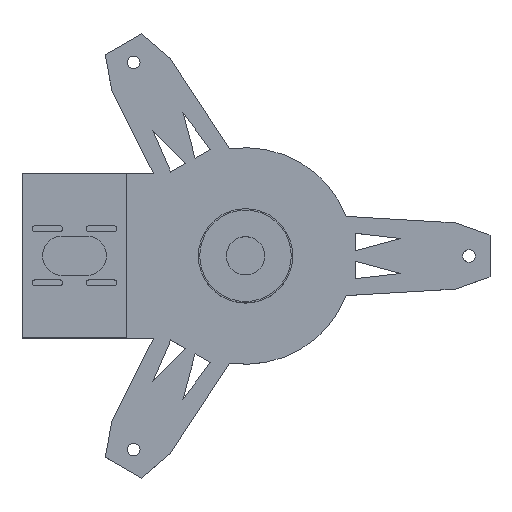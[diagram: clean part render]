
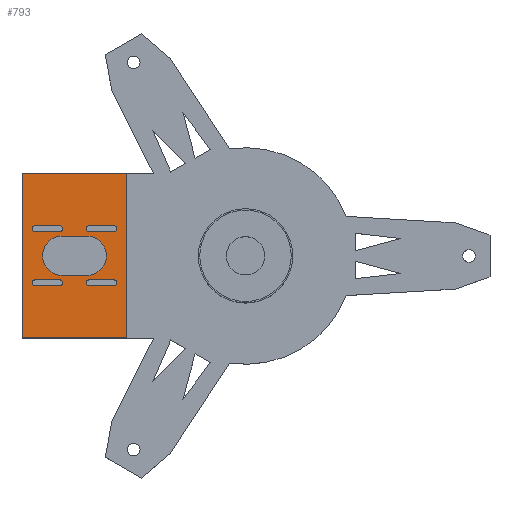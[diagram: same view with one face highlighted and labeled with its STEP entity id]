
A CAD part, top view. The second image highlights one B-rep face of the part: STEP entity #793.
In plain terms, the highlighted planar face has unit normal (0, 0, 1).
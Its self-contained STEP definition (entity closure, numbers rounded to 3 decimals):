
#793 = ADVANCED_FACE('',(#794,#828,#873,#918,#963,#1008),#1053,.T.);
#794 = FACE_BOUND('',#795,.T.);
#795 = EDGE_LOOP('',(#796,#806,#814,#822));
#796 = ORIENTED_EDGE('',*,*,#797,.F.);
#797 = EDGE_CURVE('',#798,#800,#802,.T.);
#798 = VERTEX_POINT('',#799);
#799 = CARTESIAN_POINT('',(-128.,-47.,66.));
#800 = VERTEX_POINT('',#801);
#801 = CARTESIAN_POINT('',(-128.,47.,66.));
#802 = LINE('',#803,#804);
#803 = CARTESIAN_POINT('',(-128.,-47.,66.));
#804 = VECTOR('',#805,1.);
#805 = DIRECTION('',(-0.,1.,0.));
#806 = ORIENTED_EDGE('',*,*,#807,.T.);
#807 = EDGE_CURVE('',#798,#808,#810,.T.);
#808 = VERTEX_POINT('',#809);
#809 = CARTESIAN_POINT('',(-68.,-47.,66.));
#810 = LINE('',#811,#812);
#811 = CARTESIAN_POINT('',(-128.,-47.,66.));
#812 = VECTOR('',#813,1.);
#813 = DIRECTION('',(1.,0.,-0.));
#814 = ORIENTED_EDGE('',*,*,#815,.T.);
#815 = EDGE_CURVE('',#808,#816,#818,.T.);
#816 = VERTEX_POINT('',#817);
#817 = CARTESIAN_POINT('',(-68.,47.,66.));
#818 = LINE('',#819,#820);
#819 = CARTESIAN_POINT('',(-68.,-47.,66.));
#820 = VECTOR('',#821,1.);
#821 = DIRECTION('',(-0.,1.,0.));
#822 = ORIENTED_EDGE('',*,*,#823,.F.);
#823 = EDGE_CURVE('',#800,#816,#824,.T.);
#824 = LINE('',#825,#826);
#825 = CARTESIAN_POINT('',(-128.,47.,66.));
#826 = VECTOR('',#827,1.);
#827 = DIRECTION('',(1.,0.,-0.));
#828 = FACE_BOUND('',#829,.T.);
#829 = EDGE_LOOP('',(#830,#841,#849,#858,#867));
#830 = ORIENTED_EDGE('',*,*,#831,.F.);
#831 = EDGE_CURVE('',#832,#834,#836,.T.);
#832 = VERTEX_POINT('',#833);
#833 = CARTESIAN_POINT('',(-120.5,-13.75,66.));
#834 = VERTEX_POINT('',#835);
#835 = CARTESIAN_POINT('',(-120.5,-17.25,66.));
#836 = CIRCLE('',#837,1.75);
#837 = AXIS2_PLACEMENT_3D('',#838,#839,#840);
#838 = CARTESIAN_POINT('',(-120.5,-15.5,66.));
#839 = DIRECTION('',(0.,0.,1.));
#840 = DIRECTION('',(1.,0.,-0.));
#841 = ORIENTED_EDGE('',*,*,#842,.F.);
#842 = EDGE_CURVE('',#843,#832,#845,.T.);
#843 = VERTEX_POINT('',#844);
#844 = CARTESIAN_POINT('',(-106.5,-13.75,66.));
#845 = LINE('',#846,#847);
#846 = CARTESIAN_POINT('',(-124.25,-13.75,66.));
#847 = VECTOR('',#848,1.);
#848 = DIRECTION('',(-1.,-0.,0.));
#849 = ORIENTED_EDGE('',*,*,#850,.F.);
#850 = EDGE_CURVE('',#851,#843,#853,.T.);
#851 = VERTEX_POINT('',#852);
#852 = CARTESIAN_POINT('',(-104.75,-15.5,66.));
#853 = CIRCLE('',#854,1.75);
#854 = AXIS2_PLACEMENT_3D('',#855,#856,#857);
#855 = CARTESIAN_POINT('',(-106.5,-15.5,66.));
#856 = DIRECTION('',(0.,0.,1.));
#857 = DIRECTION('',(1.,0.,-0.));
#858 = ORIENTED_EDGE('',*,*,#859,.F.);
#859 = EDGE_CURVE('',#860,#851,#862,.T.);
#860 = VERTEX_POINT('',#861);
#861 = CARTESIAN_POINT('',(-106.5,-17.25,66.));
#862 = CIRCLE('',#863,1.75);
#863 = AXIS2_PLACEMENT_3D('',#864,#865,#866);
#864 = CARTESIAN_POINT('',(-106.5,-15.5,66.));
#865 = DIRECTION('',(0.,0.,1.));
#866 = DIRECTION('',(1.,0.,-0.));
#867 = ORIENTED_EDGE('',*,*,#868,.T.);
#868 = EDGE_CURVE('',#860,#834,#869,.T.);
#869 = LINE('',#870,#871);
#870 = CARTESIAN_POINT('',(-124.25,-17.25,66.));
#871 = VECTOR('',#872,1.);
#872 = DIRECTION('',(-1.,-0.,0.));
#873 = FACE_BOUND('',#874,.T.);
#874 = EDGE_LOOP('',(#875,#886,#894,#903,#912));
#875 = ORIENTED_EDGE('',*,*,#876,.F.);
#876 = EDGE_CURVE('',#877,#879,#881,.T.);
#877 = VERTEX_POINT('',#878);
#878 = CARTESIAN_POINT('',(-89.5,-13.75,66.));
#879 = VERTEX_POINT('',#880);
#880 = CARTESIAN_POINT('',(-89.5,-17.25,66.));
#881 = CIRCLE('',#882,1.75);
#882 = AXIS2_PLACEMENT_3D('',#883,#884,#885);
#883 = CARTESIAN_POINT('',(-89.5,-15.5,66.));
#884 = DIRECTION('',(0.,0.,1.));
#885 = DIRECTION('',(1.,0.,-0.));
#886 = ORIENTED_EDGE('',*,*,#887,.F.);
#887 = EDGE_CURVE('',#888,#877,#890,.T.);
#888 = VERTEX_POINT('',#889);
#889 = CARTESIAN_POINT('',(-75.5,-13.75,66.));
#890 = LINE('',#891,#892);
#891 = CARTESIAN_POINT('',(-108.75,-13.75,66.));
#892 = VECTOR('',#893,1.);
#893 = DIRECTION('',(-1.,-0.,0.));
#894 = ORIENTED_EDGE('',*,*,#895,.F.);
#895 = EDGE_CURVE('',#896,#888,#898,.T.);
#896 = VERTEX_POINT('',#897);
#897 = CARTESIAN_POINT('',(-73.75,-15.5,66.));
#898 = CIRCLE('',#899,1.75);
#899 = AXIS2_PLACEMENT_3D('',#900,#901,#902);
#900 = CARTESIAN_POINT('',(-75.5,-15.5,66.));
#901 = DIRECTION('',(0.,0.,1.));
#902 = DIRECTION('',(1.,0.,-0.));
#903 = ORIENTED_EDGE('',*,*,#904,.F.);
#904 = EDGE_CURVE('',#905,#896,#907,.T.);
#905 = VERTEX_POINT('',#906);
#906 = CARTESIAN_POINT('',(-75.5,-17.25,66.));
#907 = CIRCLE('',#908,1.75);
#908 = AXIS2_PLACEMENT_3D('',#909,#910,#911);
#909 = CARTESIAN_POINT('',(-75.5,-15.5,66.));
#910 = DIRECTION('',(0.,0.,1.));
#911 = DIRECTION('',(1.,0.,-0.));
#912 = ORIENTED_EDGE('',*,*,#913,.T.);
#913 = EDGE_CURVE('',#905,#879,#914,.T.);
#914 = LINE('',#915,#916);
#915 = CARTESIAN_POINT('',(-108.75,-17.25,66.));
#916 = VECTOR('',#917,1.);
#917 = DIRECTION('',(-1.,-0.,0.));
#918 = FACE_BOUND('',#919,.T.);
#919 = EDGE_LOOP('',(#920,#931,#939,#948,#957));
#920 = ORIENTED_EDGE('',*,*,#921,.F.);
#921 = EDGE_CURVE('',#922,#924,#926,.T.);
#922 = VERTEX_POINT('',#923);
#923 = CARTESIAN_POINT('',(-120.5,17.25,66.));
#924 = VERTEX_POINT('',#925);
#925 = CARTESIAN_POINT('',(-120.5,13.75,66.));
#926 = CIRCLE('',#927,1.75);
#927 = AXIS2_PLACEMENT_3D('',#928,#929,#930);
#928 = CARTESIAN_POINT('',(-120.5,15.5,66.));
#929 = DIRECTION('',(0.,0.,1.));
#930 = DIRECTION('',(1.,0.,-0.));
#931 = ORIENTED_EDGE('',*,*,#932,.F.);
#932 = EDGE_CURVE('',#933,#922,#935,.T.);
#933 = VERTEX_POINT('',#934);
#934 = CARTESIAN_POINT('',(-106.5,17.25,66.));
#935 = LINE('',#936,#937);
#936 = CARTESIAN_POINT('',(-124.25,17.25,66.));
#937 = VECTOR('',#938,1.);
#938 = DIRECTION('',(-1.,-0.,0.));
#939 = ORIENTED_EDGE('',*,*,#940,.F.);
#940 = EDGE_CURVE('',#941,#933,#943,.T.);
#941 = VERTEX_POINT('',#942);
#942 = CARTESIAN_POINT('',(-104.75,15.5,66.));
#943 = CIRCLE('',#944,1.75);
#944 = AXIS2_PLACEMENT_3D('',#945,#946,#947);
#945 = CARTESIAN_POINT('',(-106.5,15.5,66.));
#946 = DIRECTION('',(0.,0.,1.));
#947 = DIRECTION('',(1.,0.,-0.));
#948 = ORIENTED_EDGE('',*,*,#949,.F.);
#949 = EDGE_CURVE('',#950,#941,#952,.T.);
#950 = VERTEX_POINT('',#951);
#951 = CARTESIAN_POINT('',(-106.5,13.75,66.));
#952 = CIRCLE('',#953,1.75);
#953 = AXIS2_PLACEMENT_3D('',#954,#955,#956);
#954 = CARTESIAN_POINT('',(-106.5,15.5,66.));
#955 = DIRECTION('',(0.,0.,1.));
#956 = DIRECTION('',(1.,0.,-0.));
#957 = ORIENTED_EDGE('',*,*,#958,.T.);
#958 = EDGE_CURVE('',#950,#924,#959,.T.);
#959 = LINE('',#960,#961);
#960 = CARTESIAN_POINT('',(-124.25,13.75,66.));
#961 = VECTOR('',#962,1.);
#962 = DIRECTION('',(-1.,-0.,0.));
#963 = FACE_BOUND('',#964,.T.);
#964 = EDGE_LOOP('',(#965,#976,#984,#993,#1002));
#965 = ORIENTED_EDGE('',*,*,#966,.F.);
#966 = EDGE_CURVE('',#967,#969,#971,.T.);
#967 = VERTEX_POINT('',#968);
#968 = CARTESIAN_POINT('',(-105.,11.3,66.));
#969 = VERTEX_POINT('',#970);
#970 = CARTESIAN_POINT('',(-105.,-11.3,66.));
#971 = CIRCLE('',#972,11.3);
#972 = AXIS2_PLACEMENT_3D('',#973,#974,#975);
#973 = CARTESIAN_POINT('',(-105.,0.,66.));
#974 = DIRECTION('',(0.,0.,1.));
#975 = DIRECTION('',(1.,0.,-0.));
#976 = ORIENTED_EDGE('',*,*,#977,.F.);
#977 = EDGE_CURVE('',#978,#967,#980,.T.);
#978 = VERTEX_POINT('',#979);
#979 = CARTESIAN_POINT('',(-91.,11.3,66.));
#980 = LINE('',#981,#982);
#981 = CARTESIAN_POINT('',(-116.5,11.3,66.));
#982 = VECTOR('',#983,1.);
#983 = DIRECTION('',(-1.,-0.,0.));
#984 = ORIENTED_EDGE('',*,*,#985,.F.);
#985 = EDGE_CURVE('',#986,#978,#988,.T.);
#986 = VERTEX_POINT('',#987);
#987 = CARTESIAN_POINT('',(-79.7,0.,66.));
#988 = CIRCLE('',#989,11.3);
#989 = AXIS2_PLACEMENT_3D('',#990,#991,#992);
#990 = CARTESIAN_POINT('',(-91.,0.,66.));
#991 = DIRECTION('',(0.,0.,1.));
#992 = DIRECTION('',(1.,0.,-0.));
#993 = ORIENTED_EDGE('',*,*,#994,.F.);
#994 = EDGE_CURVE('',#995,#986,#997,.T.);
#995 = VERTEX_POINT('',#996);
#996 = CARTESIAN_POINT('',(-91.,-11.3,66.));
#997 = CIRCLE('',#998,11.3);
#998 = AXIS2_PLACEMENT_3D('',#999,#1000,#1001);
#999 = CARTESIAN_POINT('',(-91.,0.,66.));
#1000 = DIRECTION('',(0.,0.,1.));
#1001 = DIRECTION('',(1.,0.,-0.));
#1002 = ORIENTED_EDGE('',*,*,#1003,.T.);
#1003 = EDGE_CURVE('',#995,#969,#1004,.T.);
#1004 = LINE('',#1005,#1006);
#1005 = CARTESIAN_POINT('',(-116.5,-11.3,66.));
#1006 = VECTOR('',#1007,1.);
#1007 = DIRECTION('',(-1.,-0.,0.));
#1008 = FACE_BOUND('',#1009,.T.);
#1009 = EDGE_LOOP('',(#1010,#1021,#1029,#1038,#1047));
#1010 = ORIENTED_EDGE('',*,*,#1011,.F.);
#1011 = EDGE_CURVE('',#1012,#1014,#1016,.T.);
#1012 = VERTEX_POINT('',#1013);
#1013 = CARTESIAN_POINT('',(-89.5,17.25,66.));
#1014 = VERTEX_POINT('',#1015);
#1015 = CARTESIAN_POINT('',(-89.5,13.75,66.));
#1016 = CIRCLE('',#1017,1.75);
#1017 = AXIS2_PLACEMENT_3D('',#1018,#1019,#1020);
#1018 = CARTESIAN_POINT('',(-89.5,15.5,66.));
#1019 = DIRECTION('',(0.,0.,1.));
#1020 = DIRECTION('',(1.,0.,-0.));
#1021 = ORIENTED_EDGE('',*,*,#1022,.F.);
#1022 = EDGE_CURVE('',#1023,#1012,#1025,.T.);
#1023 = VERTEX_POINT('',#1024);
#1024 = CARTESIAN_POINT('',(-75.5,17.25,66.));
#1025 = LINE('',#1026,#1027);
#1026 = CARTESIAN_POINT('',(-108.75,17.25,66.));
#1027 = VECTOR('',#1028,1.);
#1028 = DIRECTION('',(-1.,-0.,0.));
#1029 = ORIENTED_EDGE('',*,*,#1030,.F.);
#1030 = EDGE_CURVE('',#1031,#1023,#1033,.T.);
#1031 = VERTEX_POINT('',#1032);
#1032 = CARTESIAN_POINT('',(-73.75,15.5,66.));
#1033 = CIRCLE('',#1034,1.75);
#1034 = AXIS2_PLACEMENT_3D('',#1035,#1036,#1037);
#1035 = CARTESIAN_POINT('',(-75.5,15.5,66.));
#1036 = DIRECTION('',(0.,0.,1.));
#1037 = DIRECTION('',(1.,0.,-0.));
#1038 = ORIENTED_EDGE('',*,*,#1039,.F.);
#1039 = EDGE_CURVE('',#1040,#1031,#1042,.T.);
#1040 = VERTEX_POINT('',#1041);
#1041 = CARTESIAN_POINT('',(-75.5,13.75,66.));
#1042 = CIRCLE('',#1043,1.75);
#1043 = AXIS2_PLACEMENT_3D('',#1044,#1045,#1046);
#1044 = CARTESIAN_POINT('',(-75.5,15.5,66.));
#1045 = DIRECTION('',(0.,0.,1.));
#1046 = DIRECTION('',(1.,0.,-0.));
#1047 = ORIENTED_EDGE('',*,*,#1048,.T.);
#1048 = EDGE_CURVE('',#1040,#1014,#1049,.T.);
#1049 = LINE('',#1050,#1051);
#1050 = CARTESIAN_POINT('',(-108.75,13.75,66.));
#1051 = VECTOR('',#1052,1.);
#1052 = DIRECTION('',(-1.,-0.,0.));
#1053 = PLANE('',#1054);
#1054 = AXIS2_PLACEMENT_3D('',#1055,#1056,#1057);
#1055 = CARTESIAN_POINT('',(-128.,-47.,66.));
#1056 = DIRECTION('',(0.,0.,1.));
#1057 = DIRECTION('',(1.,0.,-0.));
